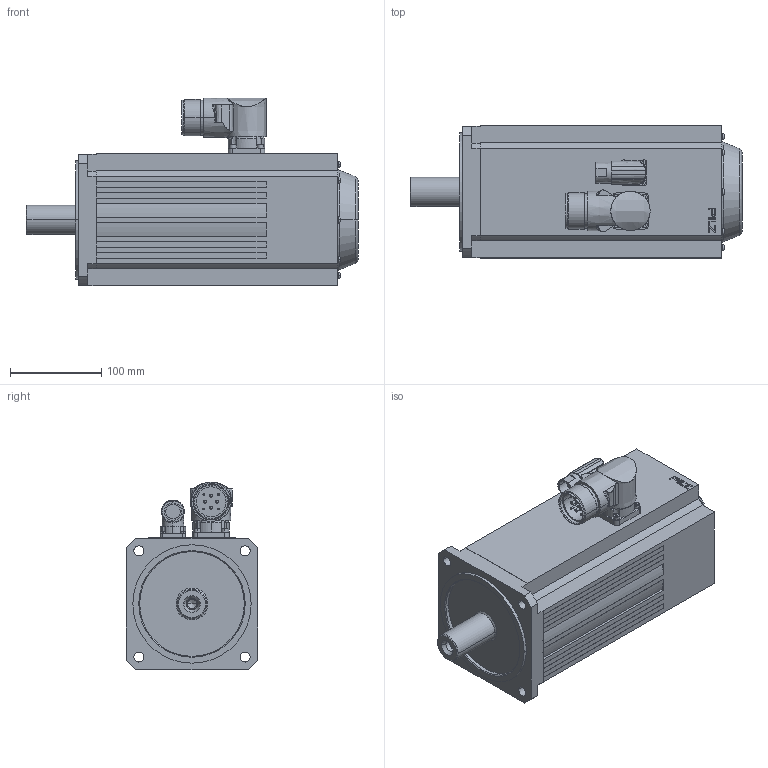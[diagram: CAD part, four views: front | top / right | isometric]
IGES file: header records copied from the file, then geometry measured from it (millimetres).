
Start section:  PTC IGES file: 2023500
Global section: file name: 2023500; native system: Creo Parametric by Parametric Technology Corporation; preprocessor: 2015110; author: smayer; organization: Unknown; date: 20161104.061339; units: millimetre
Bounding box: 364.7 x 145 x 206.38 mm (x, y, z)
Surface area: 250978.2 mm2 (no closed solid volume)
Topology: 0 solids, 0 shells, 494 faces, 2572 edges, 2570 vertices
Faces by surface type: bspline 292, revolution 202
